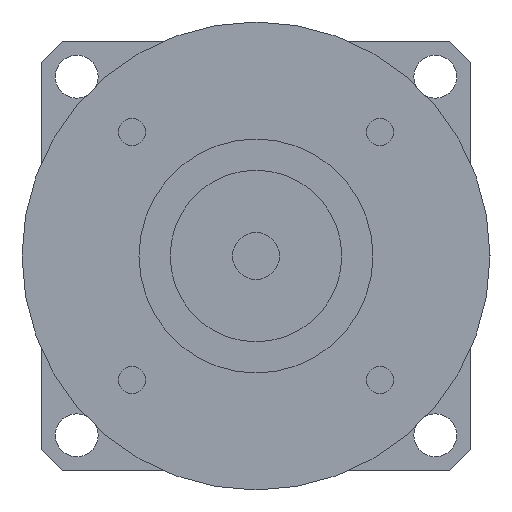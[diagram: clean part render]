
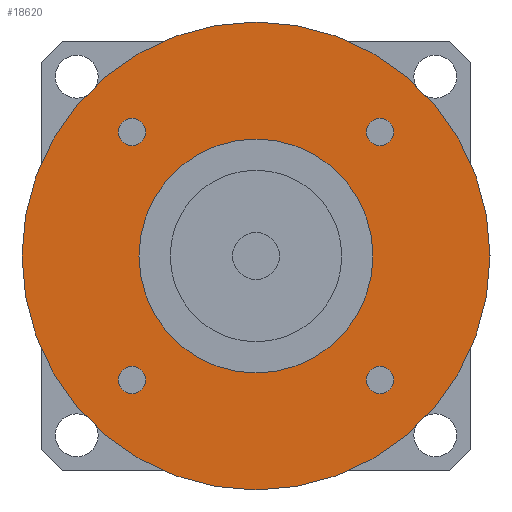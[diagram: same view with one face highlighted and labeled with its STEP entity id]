
A CAD part, left-side view. The second image highlights one B-rep face of the part: STEP entity #18620.
In plain terms, the highlighted planar face has unit normal (-1, 0, 0) as drawn and (0, 0, -1) by its records, which use the part's own axes.
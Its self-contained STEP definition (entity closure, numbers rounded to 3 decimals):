
#11050=CARTESIAN_POINT('',(0.,0.,
-62.));
#11060=DIRECTION('',(0.,0.,1.));
#11070=DIRECTION('',(0.,-1.,0.));
#11080=AXIS2_PLACEMENT_3D('',#11050,#11060,#11070);
#11090=CIRCLE('',#11080,15.);
#11100=CARTESIAN_POINT('',(0.,-15.,-62.));
#11110=VERTEX_POINT('',#11100);
#11120=CARTESIAN_POINT('',(15.,0.,-62.));
#11130=VERTEX_POINT('',#11120);
#11140=EDGE_CURVE('',#11110,#11130,#11090,.T.);
#11370=CARTESIAN_POINT('',(-15.,0.,-62.));
#11380=VERTEX_POINT('',#11370);
#11410=EDGE_CURVE('',#11380,#11110,#11090,.T.);
#12790=CARTESIAN_POINT('',(-14.16,-15.91,-62.));
#12800=VERTEX_POINT('',#12790);
#12980=CARTESIAN_POINT('',(-17.66,-15.91,-62.));
#12990=VERTEX_POINT('',#12980);
#13020=CARTESIAN_POINT('',(-15.91,-15.91,-62.));
#13030=DIRECTION('',(0.,0.,-1.));
#13040=DIRECTION('',(0.,-1.,0.));
#13050=AXIS2_PLACEMENT_3D('',#13020,#13030,#13040);
#13060=CIRCLE('',#13050,1.75);
#13070=CARTESIAN_POINT('',(-15.91,-17.66,-62.));
#13080=VERTEX_POINT('',#13070);
#13090=EDGE_CURVE('',#13080,#12990,#13060,.T.);
#13110=EDGE_CURVE('',#12800,#13080,#13060,.T.);
#17550=CARTESIAN_POINT('',(30.,0.,-62.));
#17560=VERTEX_POINT('',#17550);
#17590=CARTESIAN_POINT('',(0.,0.,
-62.));
#17600=DIRECTION('',(0.,0.,1.));
#17610=DIRECTION('',(0.,-1.,0.));
#17620=AXIS2_PLACEMENT_3D('',#17590,#17600,#17610);
#17630=CIRCLE('',#17620,30.);
#17640=CARTESIAN_POINT('',(0.,-30.,-62.));
#17650=VERTEX_POINT('',#17640);
#17660=EDGE_CURVE('',#17650,#17560,#17630,.T.);
#17680=CARTESIAN_POINT('',(-30.,0.,-62.));
#17690=VERTEX_POINT('',#17680);
#17700=EDGE_CURVE('',#17690,#17650,#17630,.T.);
#17820=CARTESIAN_POINT('',(0.,0.,
-62.));
#17830=DIRECTION('',(0.,0.,1.));
#17840=DIRECTION('',(-1.,0.,0.));
#17850=AXIS2_PLACEMENT_3D('',#17820,#17830,#17840);
#17860=PLANE('',#17850);
#17870=CARTESIAN_POINT('',(15.91,-15.91,-62.));
#17880=DIRECTION('',(0.,0.,-1.));
#17890=DIRECTION('',(1.,0.,0.));
#17900=AXIS2_PLACEMENT_3D('',#17870,#17880,#17890);
#17910=CIRCLE('',#17900,1.75);
#17920=CARTESIAN_POINT('',(17.66,-15.91,-62.));
#17930=VERTEX_POINT('',#17920);
#17940=CARTESIAN_POINT('',(15.91,-17.66,-62.));
#17950=VERTEX_POINT('',#17940);
#17960=EDGE_CURVE('',#17930,#17950,#17910,.T.);
#17970=ORIENTED_EDGE('',*,*,#17960,.F.);
#17980=CARTESIAN_POINT('',(15.91,-14.16,-62.));
#17990=VERTEX_POINT('',#17980);
#18000=EDGE_CURVE('',#17950,#17990,#17910,.T.);
#18010=ORIENTED_EDGE('',*,*,#18000,.F.);
#18020=EDGE_CURVE('',#17990,#17930,#17910,.T.);
#18030=ORIENTED_EDGE('',*,*,#18020,.F.);
#18040=EDGE_LOOP('',(#18030,#18010,#17970));
#18050=FACE_BOUND('',#18040,.T.);
#18060=CARTESIAN_POINT('',(15.91,15.91,-62.));
#18070=DIRECTION('',(0.,0.,-1.));
#18080=DIRECTION('',(0.,1.,0.));
#18090=AXIS2_PLACEMENT_3D('',#18060,#18070,#18080);
#18100=CIRCLE('',#18090,1.75);
#18110=CARTESIAN_POINT('',(15.91,17.66,-62.));
#18120=VERTEX_POINT('',#18110);
#18130=CARTESIAN_POINT('',(17.66,15.91,-62.));
#18140=VERTEX_POINT('',#18130);
#18150=EDGE_CURVE('',#18120,#18140,#18100,.T.);
#18160=ORIENTED_EDGE('',*,*,#18150,.F.);
#18170=CARTESIAN_POINT('',(14.16,15.91,-62.));
#18180=VERTEX_POINT('',#18170);
#18190=EDGE_CURVE('',#18140,#18180,#18100,.T.);
#18200=ORIENTED_EDGE('',*,*,#18190,.F.);
#18210=EDGE_CURVE('',#18180,#18120,#18100,.T.);
#18220=ORIENTED_EDGE('',*,*,#18210,.F.);
#18230=EDGE_LOOP('',(#18220,#18200,#18160));
#18240=FACE_BOUND('',#18230,.T.);
#18250=CARTESIAN_POINT('',(-15.91,15.91,-62.));
#18260=DIRECTION('',(0.,0.,-1.));
#18270=DIRECTION('',(-1.,0.,0.));
#18280=AXIS2_PLACEMENT_3D('',#18250,#18260,#18270);
#18290=CIRCLE('',#18280,1.75);
#18300=CARTESIAN_POINT('',(-17.66,15.91,-62.));
#18310=VERTEX_POINT('',#18300);
#18320=CARTESIAN_POINT('',(-15.91,17.66,-62.));
#18330=VERTEX_POINT('',#18320);
#18340=EDGE_CURVE('',#18310,#18330,#18290,.T.);
#18350=ORIENTED_EDGE('',*,*,#18340,.F.);
#18360=CARTESIAN_POINT('',(-15.91,14.16,-62.));
#18370=VERTEX_POINT('',#18360);
#18380=EDGE_CURVE('',#18330,#18370,#18290,.T.);
#18390=ORIENTED_EDGE('',*,*,#18380,.F.);
#18400=EDGE_CURVE('',#18370,#18310,#18290,.T.);
#18410=ORIENTED_EDGE('',*,*,#18400,.F.);
#18420=EDGE_LOOP('',(#18410,#18390,#18350));
#18430=FACE_BOUND('',#18420,.T.);
#18440=ORIENTED_EDGE('',*,*,#13090,.F.);
#18450=EDGE_CURVE('',#12990,#12800,#13060,.T.);
#18460=ORIENTED_EDGE('',*,*,#18450,.F.);
#18470=ORIENTED_EDGE('',*,*,#13110,.F.);
#18480=EDGE_LOOP('',(#18470,#18460,#18440));
#18490=FACE_BOUND('',#18480,.T.);
#18500=ORIENTED_EDGE('',*,*,#17660,.F.);
#18510=EDGE_CURVE('',#17560,#17690,#17630,.T.);
#18520=ORIENTED_EDGE('',*,*,#18510,.F.);
#18530=ORIENTED_EDGE('',*,*,#17700,.F.);
#18540=EDGE_LOOP('',(#18530,#18520,#18500));
#18550=FACE_OUTER_BOUND('',#18540,.T.);
#18560=EDGE_CURVE('',#11130,#11380,#11090,.T.);
#18570=ORIENTED_EDGE('',*,*,#18560,.T.);
#18580=ORIENTED_EDGE('',*,*,#11140,.T.);
#18590=ORIENTED_EDGE('',*,*,#11410,.T.);
#18600=EDGE_LOOP('',(#18590,#18580,#18570));
#18610=FACE_BOUND('',#18600,.T.);
#18620=ADVANCED_FACE('',(#18050,#18240,#18430,#18490,#18550,#18610),
#17860,.F.);
